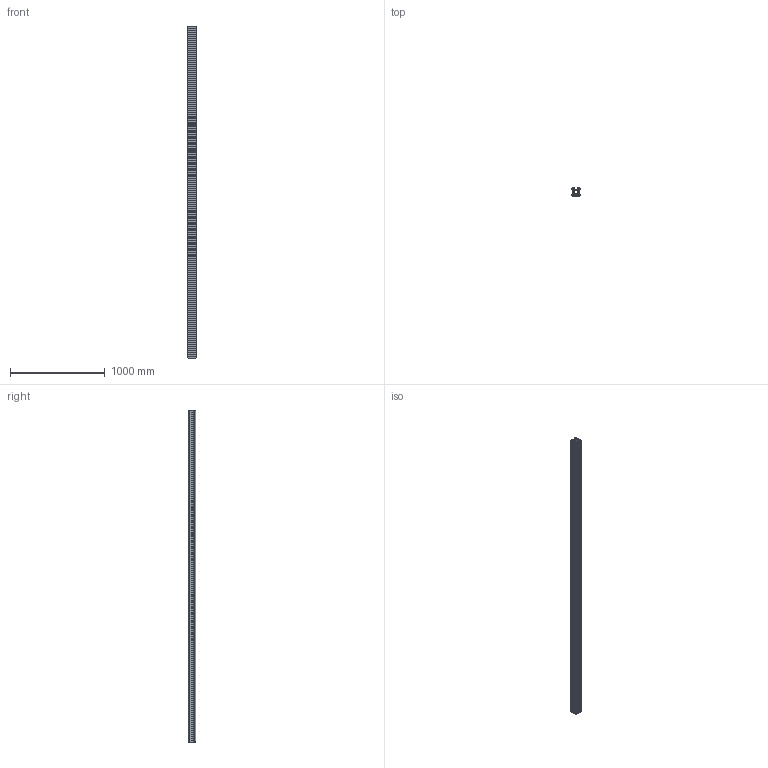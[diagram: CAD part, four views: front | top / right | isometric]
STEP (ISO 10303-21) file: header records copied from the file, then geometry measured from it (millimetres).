
FILE_DESCRIPTION (( 'STEP AP203' ), '1' );
FILE_NAME ('_-_MLF 4 3498 mm lang.step', '2005-09-01T12:46:53', ( ' ' ), ( ' ' ), 'SwSTEP 2.0', 'SolidWorks 2005187', '' );
FILE_SCHEMA (( 'CONFIG_CONTROL_DESIGN' ));
Length unit declared in the file: millimetre
Products named in the file (1): _-_MLF 4  3498 mm lang
Bounding box: 87.56 x 80 x 3498 mm (x, y, z)
Volume: 8060018.4 mm3; surface area: 4319985.8 mm2
Topology: 1 solids, 1 shells, 248 faces, 762 edges, 500 vertices
Faces by surface type: plane 174, cylinder 74
Entity records: 8575 total; most frequent: ORIENTED_EDGE 1524, CARTESIAN_POINT 1511, DIRECTION 1408, EDGE_CURVE 762, VECTOR 614, LINE 614, VERTEX_POINT 500, AXIS2_PLACEMENT_3D 397
